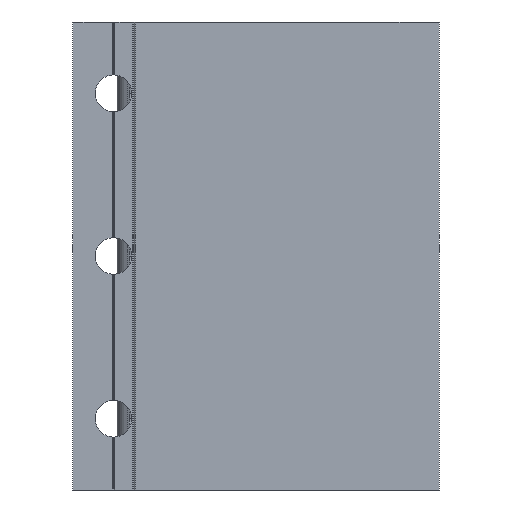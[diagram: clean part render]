
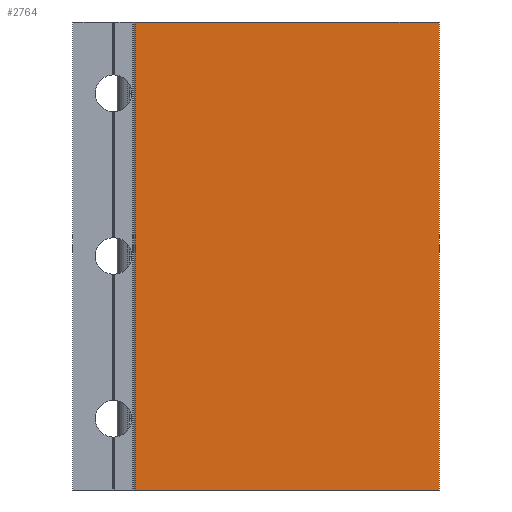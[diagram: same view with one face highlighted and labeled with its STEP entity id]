
A CAD part, front view. The second image highlights one B-rep face of the part: STEP entity #2764.
In plain terms, the highlighted planar face has unit normal (0, -1, 0).
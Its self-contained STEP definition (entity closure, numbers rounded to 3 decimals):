
#1 = CARTESIAN_POINT ( 'NONE',  ( 0., 0., 57.5 ) ) ;
#75 = VERTEX_POINT ( 'NONE', #1 ) ;
#104 = EDGE_CURVE ( 'NONE', #2666, #2350, #314, .T. ) ;
#122 = EDGE_CURVE ( 'NONE', #1297, #2666, #1431, .T. ) ;
#288 = VECTOR ( 'NONE', #431, 1000. ) ;
#314 = LINE ( 'NONE', #1251, #288 ) ;
#431 = DIRECTION ( 'NONE',  ( 1., 0., 0. ) ) ;
#521 = AXIS2_PLACEMENT_3D ( 'NONE', #2178, #1095, #2599 ) ;
#648 = CARTESIAN_POINT ( 'NONE',  ( 0., 0., -57.5 ) ) ;
#774 = FACE_OUTER_BOUND ( 'NONE', #2334, .T. ) ;
#954 = VECTOR ( 'NONE', #1927, 1000. ) ;
#1095 = DIRECTION ( 'NONE',  ( 0., 1., 0. ) ) ;
#1129 = VECTOR ( 'NONE', #1165, 1000. ) ;
#1165 = DIRECTION ( 'NONE',  ( 0., 0., -1. ) ) ;
#1251 = CARTESIAN_POINT ( 'NONE',  ( 0., 0., -57.5 ) ) ;
#1267 = CARTESIAN_POINT ( 'NONE',  ( -74.7, 0., -57.5 ) ) ;
#1297 = VERTEX_POINT ( 'NONE', #2315 ) ;
#1431 = LINE ( 'NONE', #1719, #1925 ) ;
#1518 = ORIENTED_EDGE ( 'NONE', *, *, #2121, .F. ) ;
#1713 = CARTESIAN_POINT ( 'NONE',  ( 0., 0., 57.5 ) ) ;
#1716 = ORIENTED_EDGE ( 'NONE', *, *, #122, .T. ) ;
#1719 = CARTESIAN_POINT ( 'NONE',  ( -74.7, 0., 57.5 ) ) ;
#1784 = EDGE_CURVE ( 'NONE', #1297, #75, #2179, .T. ) ;
#1821 = ORIENTED_EDGE ( 'NONE', *, *, #104, .T. ) ;
#1925 = VECTOR ( 'NONE', #2787, 1000. ) ;
#1927 = DIRECTION ( 'NONE',  ( 1., 0., 0. ) ) ;
#2033 = ORIENTED_EDGE ( 'NONE', *, *, #1784, .F. ) ;
#2121 = EDGE_CURVE ( 'NONE', #75, #2350, #2220, .T. ) ;
#2178 = CARTESIAN_POINT ( 'NONE',  ( 0., 0., 57.5 ) ) ;
#2179 = LINE ( 'NONE', #1713, #954 ) ;
#2220 = LINE ( 'NONE', #2449, #1129 ) ;
#2315 = CARTESIAN_POINT ( 'NONE',  ( -74.7, 0., 57.5 ) ) ;
#2334 = EDGE_LOOP ( 'NONE', ( #1821, #1518, #2033, #1716 ) ) ;
#2350 = VERTEX_POINT ( 'NONE', #648 ) ;
#2377 = PLANE ( 'NONE',  #521 ) ;
#2449 = CARTESIAN_POINT ( 'NONE',  ( 0., 0., 57.5 ) ) ;
#2599 = DIRECTION ( 'NONE',  ( 0., 0., 1. ) ) ;
#2666 = VERTEX_POINT ( 'NONE', #1267 ) ;
#2764 = ADVANCED_FACE ( 'NONE', ( #774 ), #2377, .F. ) ;
#2787 = DIRECTION ( 'NONE',  ( 0., 0., -1. ) ) ;
